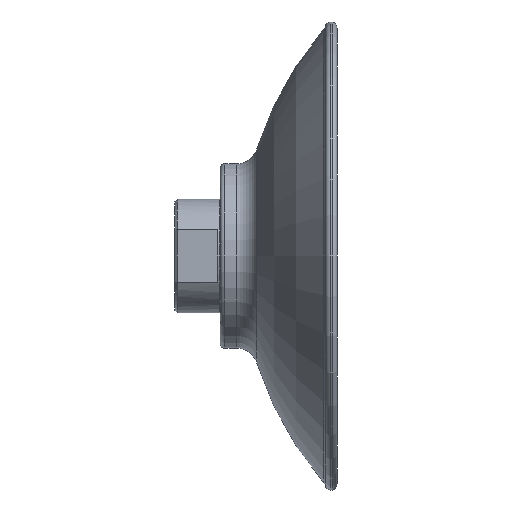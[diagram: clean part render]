
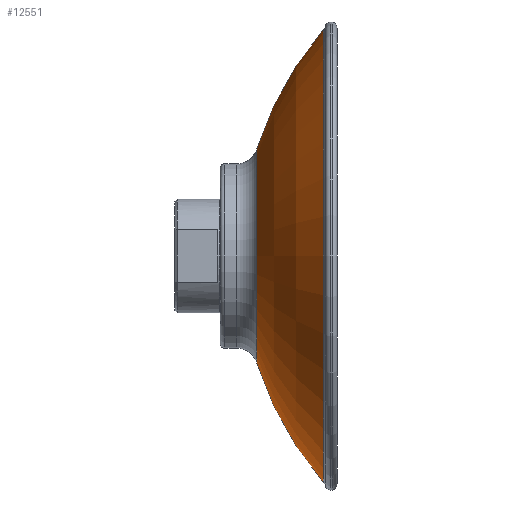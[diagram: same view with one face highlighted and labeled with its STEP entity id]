
A CAD part, left-side view. The second image highlights one B-rep face of the part: STEP entity #12551.
In plain terms, the highlighted toroidal (fillet/blend) face has major radius 0.846 mm and minor radius 74.588 mm.
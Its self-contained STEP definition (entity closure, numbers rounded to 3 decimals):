
#1339 = DIRECTION ( 'NONE',  ( 1., 0., 0. ) ) ;
#2136 = CIRCLE ( 'NONE', #14983, 74.587 ) ;
#2204 = DIRECTION ( 'NONE',  ( 0., 1., 0. ) ) ;
#2257 = ORIENTED_EDGE ( 'NONE', *, *, #7554, .T. ) ;
#3141 = CARTESIAN_POINT ( 'NONE',  ( 0., -22.909, -49.479 ) ) ;
#3992 = CARTESIAN_POINT ( 'NONE',  ( 0., -79.462, 0.846 ) ) ;
#4240 = ORIENTED_EDGE ( 'NONE', *, *, #19552, .T. ) ;
#4270 = CARTESIAN_POINT ( 'NONE',  ( 0., -22.909, 49.479 ) ) ;
#4692 = CIRCLE ( 'NONE', #10639, 49.479 ) ;
#5570 = DIRECTION ( 'NONE',  ( 0., 0., 1. ) ) ;
#6091 = TOROIDAL_SURFACE ( 'NONE', #13032, 0.846, 74.587 ) ;
#6699 = CARTESIAN_POINT ( 'NONE',  ( 0., -79.462, -0.846 ) ) ;
#6762 = CARTESIAN_POINT ( 'NONE',  ( 0., -79.462, 0. ) ) ;
#7231 = CARTESIAN_POINT ( 'NONE',  ( 0., -8.367, 0. ) ) ;
#7456 = CARTESIAN_POINT ( 'NONE',  ( 0., -8.367, -23.404 ) ) ;
#7554 = EDGE_CURVE ( 'NONE', #14404, #31658, #27821, .T. ) ;
#9392 = EDGE_CURVE ( 'NONE', #17928, #31658, #26549, .T. ) ;
#10639 = AXIS2_PLACEMENT_3D ( 'NONE', #31196, #25766, #5570 ) ;
#11517 = ORIENTED_EDGE ( 'NONE', *, *, #9392, .F. ) ;
#11708 = DIRECTION ( 'NONE',  ( -1., 0., 0. ) ) ;
#12551 = ADVANCED_FACE ( 'NONE', ( #21896 ), #6091, .T. ) ;
#13032 = AXIS2_PLACEMENT_3D ( 'NONE', #6762, #17001, #32725 ) ;
#13376 = EDGE_LOOP ( 'NONE', ( #22012, #4240, #2257, #11517 ) ) ;
#14404 = VERTEX_POINT ( 'NONE', #4270 ) ;
#14983 = AXIS2_PLACEMENT_3D ( 'NONE', #6699, #1339, #16283 ) ;
#16283 = DIRECTION ( 'NONE',  ( 0., 0., -1. ) ) ;
#17001 = DIRECTION ( 'NONE',  ( 0., 1., 0. ) ) ;
#17928 = VERTEX_POINT ( 'NONE', #7456 ) ;
#19552 = EDGE_CURVE ( 'NONE', #21642, #14404, #4692, .T. ) ;
#21642 = VERTEX_POINT ( 'NONE', #3141 ) ;
#21896 = FACE_OUTER_BOUND ( 'NONE', #13376, .T. ) ;
#22012 = ORIENTED_EDGE ( 'NONE', *, *, #29448, .F. ) ;
#22701 = DIRECTION ( 'NONE',  ( 0., 0., 1. ) ) ;
#25010 = DIRECTION ( 'NONE',  ( 0., 0., 1. ) ) ;
#25766 = DIRECTION ( 'NONE',  ( 0., 1., 0. ) ) ;
#26549 = CIRCLE ( 'NONE', #31422, 23.404 ) ;
#27821 = CIRCLE ( 'NONE', #31078, 74.587 ) ;
#29351 = CARTESIAN_POINT ( 'NONE',  ( 0., -8.367, 23.404 ) ) ;
#29448 = EDGE_CURVE ( 'NONE', #21642, #17928, #2136, .T. ) ;
#31078 = AXIS2_PLACEMENT_3D ( 'NONE', #3992, #11708, #25010 ) ;
#31196 = CARTESIAN_POINT ( 'NONE',  ( 0., -22.909, 0. ) ) ;
#31422 = AXIS2_PLACEMENT_3D ( 'NONE', #7231, #2204, #22701 ) ;
#31658 = VERTEX_POINT ( 'NONE', #29351 ) ;
#32725 = DIRECTION ( 'NONE',  ( 0., 0., 1. ) ) ;
